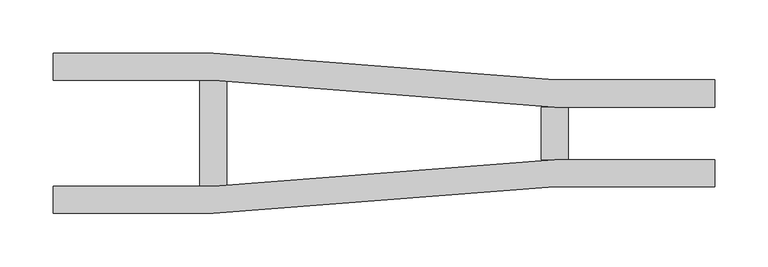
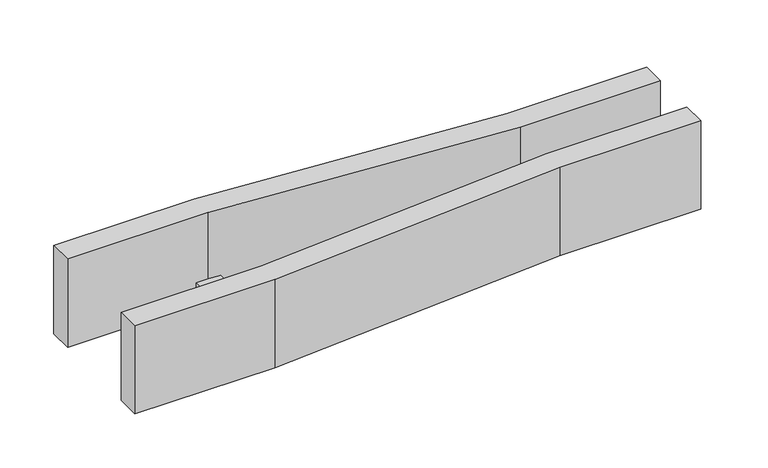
"""IFC4 building model written with IfcOpenShell, lengths in millimetres: cable carrier fitting geometry, BAKS_LD_RED_Straight reducer_RDSV : RDSVP_H100."""

import ifcopenshell
import ifcopenshell.guid

model = None  # the IFC model being written
_history = None  # IfcOwnerHistory: only IFC2X3 demands one
_inside = {}  # id of a spatial element -> (the spatial element, [elements in it])
_under = {}  # id of a project, library or spatial element -> (it, [spatial elements below it])
_declared = {}  # id of a project -> (the project, [libraries it declares])
_typed = {}  # id of a type object -> (the type object, [elements of that type])
_made_of = {}  # id of a material, layer set ... -> (it, [elements and type objects made of it])


def new_model(schema):
    """Start an empty IFC model of exactly this schema.

    Asked for "IFC4X3", IfcOpenShell would pick the latest addendum, in which some entities
    have other attributes; the version numbers below select the first issue.
    IFC2X3 requires an IfcOwnerHistory on every rooted entity: one is made here for all.
    """
    global model, _history
    if schema == "IFC4X3":
        model = ifcopenshell.file(schema_version=(4, 3, 0, 0))
    else:
        model = ifcopenshell.file(schema=schema)
    _inside.clear()
    _under.clear()
    _declared.clear()
    _typed.clear()
    _made_of.clear()
    _history = None
    if model.schema == "IFC2X3":
        org = make("IfcOrganization", Name="unknown")
        user = make(
            "IfcPersonAndOrganization",
            ThePerson=make("IfcPerson", FamilyName="unknown"),
            TheOrganization=org,
        )
        app = make(
            "IfcApplication",
            ApplicationDeveloper=org,
            Version="unknown",
            ApplicationFullName="unknown",
            ApplicationIdentifier="unknown",
        )
        _history = make(
            "IfcOwnerHistory",
            OwningUser=user,
            OwningApplication=app,
            ChangeAction="ADDED",
            CreationDate=0,
        )
    return model


def make(cls, **values):
    """One entity of the class cls with the attributes given. An attribute that is None is left unset."""
    return model.create_entity(
        cls, **{name: value for name, value in values.items() if value is not None}
    )


def rooted(cls, **values):
    """An entity with a GlobalId (a new one), such as an element, a storey or a relation."""
    return make(cls, GlobalId=ifcopenshell.guid.new(), OwnerHistory=_history, **values)


def si_unit(unit_type, name, prefix=None):
    """IfcSIUnit, for example si_unit("LENGTHUNIT", "METRE", prefix="MILLI")."""
    return make("IfcSIUnit", UnitType=unit_type, Prefix=prefix, Name=name)


def assignment(units):
    """IfcUnitAssignment: the units of a project."""
    return None if units is None else make("IfcUnitAssignment", Units=units)


def point(xyz):
    """IfcCartesianPoint."""
    return None if xyz is None else make("IfcCartesianPoint", Coordinates=xyz)


def direction(xyz):
    """IfcDirection."""
    return None if xyz is None else make("IfcDirection", DirectionRatios=xyz)


def frame(location, z_axis=None, x_axis=None):
    """IfcAxis2Placement3D, a coordinate frame: its origin and axes. An axis left out is left unset."""
    return make(
        "IfcAxis2Placement3D",
        Location=point(location),
        Axis=direction(z_axis),
        RefDirection=direction(x_axis),
    )


def origin():
    """The frame at (0, 0, 0) with its axes left unset."""
    return frame((0.0, 0.0, 0.0))


def place(relative_to, where):
    """IfcLocalPlacement: puts the frame where relative to a parent placement (None: the world)."""
    return make(
        "IfcLocalPlacement", PlacementRelTo=relative_to, RelativePlacement=where
    )


def context(
    kind, dimensions, precision=None, world=None, true_north=None, identifier=None
):
    """IfcGeometricRepresentationContext, for example the 3D "Model" context."""
    return make(
        "IfcGeometricRepresentationContext",
        ContextIdentifier=identifier,
        ContextType=kind,
        CoordinateSpaceDimension=dimensions,
        Precision=precision,
        WorldCoordinateSystem=world,
        TrueNorth=true_north,
    )


def project(units=None, contexts=None):
    """IfcProject with its units and contexts."""
    return rooted(
        "IfcProject",
        Name="project",
        RepresentationContexts=contexts,
        UnitsInContext=assignment(units),
    )


def spatial(cls, under=None, at=None, **own):
    """A site, building, storey or space (cls), placed at a placement, below another one or the project."""
    s = rooted(cls, ObjectPlacement=at, **own)
    if under is not None:
        _under.setdefault(under.id(), (under, []))[1].append(s)
    return s


def polyline(points):
    """IfcPolyline through the points."""
    return make("IfcPolyline", Points=[point(p) for p in points])


def outline(outer, holes=None, kind="AREA"):
    """IfcArbitraryClosedProfileDef: a profile drawn as a closed curve; with holes, ...WithVoids."""
    if holes is None:
        return make("IfcArbitraryClosedProfileDef", ProfileType=kind, OuterCurve=outer)
    return make(
        "IfcArbitraryProfileDefWithVoids",
        ProfileType=kind,
        OuterCurve=outer,
        InnerCurves=holes,
    )


def extrude(swept, where, along, depth):
    """IfcExtrudedAreaSolid: the profile swept, set in the frame where, extruded along a direction by depth."""
    return make(
        "IfcExtrudedAreaSolid",
        SweptArea=swept,
        Position=where,
        ExtrudedDirection=direction(along),
        Depth=depth,
    )


def shape(context_of_items, identifier, shape_type, items):
    """IfcShapeRepresentation: the items that make up one representation, for example the "Body"."""
    return make(
        "IfcShapeRepresentation",
        ContextOfItems=context_of_items,
        RepresentationIdentifier=identifier,
        RepresentationType=shape_type,
        Items=items,
    )


def source(mapping_origin, context_of_items, identifier, shape_type, items):
    """IfcRepresentationMap: a shape defined once, which mapped items show again and again."""
    return make(
        "IfcRepresentationMap",
        MappingOrigin=mapping_origin,
        MappedRepresentation=shape(context_of_items, identifier, shape_type, items),
    )


def transform(
    local_origin,
    x_axis=None,
    y_axis=None,
    z_axis=None,
    scale=None,
    scale2=None,
    scale3=None,
    uniform=True,
):
    """IfcCartesianTransformationOperator3D, or its non-uniform kind. x_axis, y_axis, z_axis: its Axis1, 2, 3."""
    if uniform:
        return make(
            "IfcCartesianTransformationOperator3D",
            Axis1=direction(x_axis),
            Axis2=direction(y_axis),
            LocalOrigin=point(local_origin),
            Scale=scale,
            Axis3=direction(z_axis),
        )
    return make(
        "IfcCartesianTransformationOperator3DnonUniform",
        Axis1=direction(x_axis),
        Axis2=direction(y_axis),
        LocalOrigin=point(local_origin),
        Scale=scale,
        Axis3=direction(z_axis),
        Scale2=scale2,
        Scale3=scale3,
    )


def mapped(mapping_source, mapping_target):
    """IfcMappedItem: shows the shape of a source again, moved by a transform."""
    return make(
        "IfcMappedItem", MappingSource=mapping_source, MappingTarget=mapping_target
    )


def made_of(thing, what):
    """Note that an element or type object is made of a material, layer set ...; save() writes the relation."""
    if what is not None:
        _made_of.setdefault(what.id(), (what, []))[1].append(thing)
    return thing


def element(
    cls,
    number,
    at=None,
    inside=None,
    cuts=None,
    type_object=None,
    material=None,
    context=None,
    identifier="Body",
    shape_type=None,
    held_by="IfcProductDefinitionShape",
    body=None,
    shapes=None,
    **own,
):
    """One element of the class cls, such as IfcWall. Its Tag is "e" and its number.

    at: its placement. inside: the storey or other place that contains it. cuts: it is an
    opening in that element (IfcRelVoidsElement). A single representation is given by context,
    identifier, shape_type and body (its items); several are given by shapes. held_by: the class
    of the entity that holds the representations. save() writes the other relations.
    """
    e = rooted(cls, Tag="e%d" % number, ObjectPlacement=at, **own)
    if body is not None:
        shapes = [shape(context, identifier, shape_type, body)]
    if shapes is not None:
        e.Representation = make(held_by, Representations=shapes)
    if inside is not None:
        _inside.setdefault(inside.id(), (inside, []))[1].append(e)
    if cuts is not None:
        rooted(
            "IfcRelVoidsElement", RelatingBuildingElement=cuts, RelatedOpeningElement=e
        )
    if type_object is not None:
        _typed.setdefault(type_object.id(), (type_object, []))[1].append(e)
    return made_of(e, material)


def aggregate(whole, parts):
    """IfcRelAggregates: a whole, such as a stair, and the parts it consists of."""
    return rooted("IfcRelAggregates", RelatingObject=whole, RelatedObjects=parts)


def save(model, path):
    """Write the relations noted so far, then the file.

    IfcRelAggregates (storeys below a building ...), IfcRelContainedInSpatialStructure (elements
    in a storey), IfcRelDefinesByType, IfcRelAssociatesMaterial and IfcRelDeclares: one each for
    every whole, place, type object, material and project.
    """
    for whole, parts in _under.values():
        aggregate(whole, parts)
    for where, things in _inside.values():
        rooted(
            "IfcRelContainedInSpatialStructure",
            RelatedElements=things,
            RelatingStructure=where,
        )
    for kind, things in _typed.values():
        rooted("IfcRelDefinesByType", RelatedObjects=things, RelatingType=kind)
    for what, things in _made_of.values():
        rooted("IfcRelAssociatesMaterial", RelatedObjects=things, RelatingMaterial=what)
    for by, libraries in _declared.values():
        rooted("IfcRelDeclares", RelatingContext=by, RelatedDefinitions=libraries)
    model.write(path)


def cable_carrier_fitting_ad9a9dc8(model_context):
    return source(origin(), model_context, "Body", "SweptSolid", [
        extrude(outline(polyline([(0.0, -75.0), (0.0, -49.6), (150.0, -49.6), (470.0, -24.6), (620.0, -24.6), (620.0, -50.0), (470.0, -50.0), (150.0, -75.0), (0.0, -75.0)])), frame((0.0, 0.0, -50.0), z_axis=(0.0, 0.0, 1.0), x_axis=(1.0, 0.0, 0.0)), (0.0, 0.0, 1.0), 100.0),
        extrude(outline(polyline([(0.0, 49.6), (0.0, 75.0), (150.0, 75.0), (470.0, 50.0), (620.0, 50.0), (620.0, 24.6), (470.0, 24.6), (150.0, 49.6), (0.0, 49.6)])), frame((0.0, 0.0, -50.0), z_axis=(0.0, 0.0, 1.0), x_axis=(1.0, 0.0, 0.0)), (0.0, 0.0, 1.0), 100.0),
        extrude(outline(polyline([(457.3, 24.6), (482.7, 24.6), (482.7, -24.6), (457.3, -24.6), (457.3, 24.6)])), frame((0.0, 0.0, -50.0), z_axis=(0.0, 0.0, 1.0), x_axis=(1.0, 0.0, 0.0)), (0.0, 0.0, 1.0), 25.4),
        extrude(outline(polyline([(137.3, 49.6), (162.7, 49.6), (162.7, -49.6), (137.3, -49.6), (137.3, 49.6)])), frame((0.0, 0.0, -50.0), z_axis=(0.0, 0.0, 1.0), x_axis=(1.0, 0.0, 0.0)), (0.0, 0.0, 1.0), 25.4),
    ])


if __name__ == "__main__":
    model = new_model("IFC4")
    model_context = context("Model", 3, world=origin())
    ifc_project = project(units=[si_unit("LENGTHUNIT", "METRE", prefix="MILLI")], contexts=[model_context])
    site = spatial("IfcSite", under=ifc_project)
    building = spatial("IfcBuilding", under=site)
    placement = place(None, origin())
    cable_carrier_fitting_shape = cable_carrier_fitting_ad9a9dc8(model_context)
    element("IfcCableCarrierFitting", 1, ObjectType="BAKS_LD_RED_Straight reducer_RDSV : RDSVP_H100", at=placement, inside=building, context=model_context, shape_type="MappedRepresentation", body=[
        mapped(cable_carrier_fitting_shape, transform((0.0, 0.0, 0.0), x_axis=(1.0, 0.0, 0.0), y_axis=(0.0, 1.0, 0.0), z_axis=(0.0, 0.0, 1.0))),
    ])
    save(model, "model.ifc")
